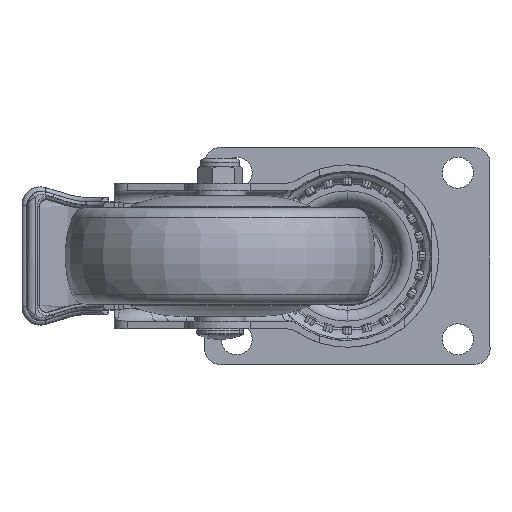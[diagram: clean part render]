
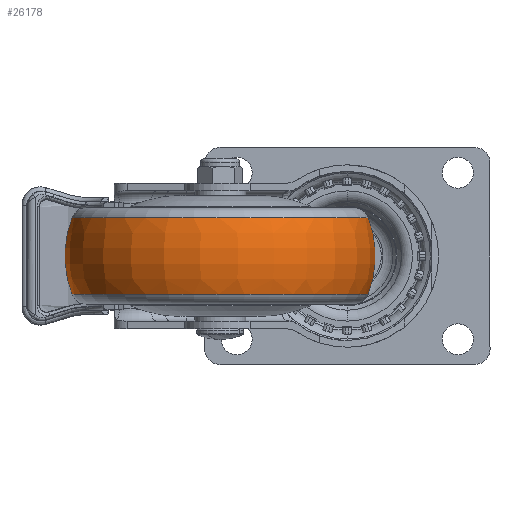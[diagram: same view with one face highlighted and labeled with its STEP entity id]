
A CAD part, front view. The second image highlights one B-rep face of the part: STEP entity #26178.
In plain terms, the highlighted toroidal (fillet/blend) face has major radius 16 mm and minor radius 34 mm.
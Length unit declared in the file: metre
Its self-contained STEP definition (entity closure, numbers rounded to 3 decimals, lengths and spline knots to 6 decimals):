
#288 = DIRECTION ( 'NONE',  ( 1., -0.007, 0. ) ) ;
#1726 = DIRECTION ( 'NONE',  ( -1., 0.007, 0. ) ) ;
#1881 = FACE_OUTER_BOUND ( 'NONE', #2879, .T. ) ;
#2341 = AXIS2_PLACEMENT_3D ( 'NONE', #28314, #11291, #13793 ) ;
#2879 = EDGE_LOOP ( 'NONE', ( #8074, #16215, #3336, #11131 ) ) ;
#3336 = ORIENTED_EDGE ( 'NONE', *, *, #9785, .T. ) ;
#3352 = CIRCLE ( 'NONE', #2341, 0.047693 ) ;
#3580 = CIRCLE ( 'NONE', #20181, 0.047693 ) ;
#5506 = DIRECTION ( 'NONE',  ( 0.007, 1., 0. ) ) ;
#5844 = CARTESIAN_POINT ( 'NONE',  ( -0.088692, -0.087233, 0.01231 ) ) ;
#7400 = CARTESIAN_POINT ( 'NONE',  ( -0.041, -0.087567, 0.01231 ) ) ;
#7701 = DIRECTION ( 'NONE',  ( -0.007, -1., 0. ) ) ;
#7955 = VERTEX_POINT ( 'NONE', #5844 ) ;
#8015 = CARTESIAN_POINT ( 'NONE',  ( 0.006692, -0.087901, 0.01231 ) ) ;
#8074 = ORIENTED_EDGE ( 'NONE', *, *, #24797, .F. ) ;
#9785 = EDGE_CURVE ( 'NONE', #7955, #13677, #14061, .T. ) ;
#11131 = ORIENTED_EDGE ( 'NONE', *, *, #13655, .F. ) ;
#11291 = DIRECTION ( 'NONE',  ( 0., 0., -1. ) ) ;
#12252 = CARTESIAN_POINT ( 'NONE',  ( -0.057, -0.087455, 0. ) ) ;
#13655 = EDGE_CURVE ( 'NONE', #15480, #13677, #3352, .T. ) ;
#13677 = VERTEX_POINT ( 'NONE', #22825 ) ;
#13692 = CARTESIAN_POINT ( 'NONE',  ( -0.041, -0.087567, 0. ) ) ;
#13793 = DIRECTION ( 'NONE',  ( -1., 0.007, 0. ) ) ;
#14061 = CIRCLE ( 'NONE', #20579, 0.034 ) ;
#15480 = VERTEX_POINT ( 'NONE', #23818 ) ;
#16059 = VERTEX_POINT ( 'NONE', #8015 ) ;
#16215 = ORIENTED_EDGE ( 'NONE', *, *, #26286, .T. ) ;
#16986 = DIRECTION ( 'NONE',  ( -1., 0.007, 0. ) ) ;
#20181 = AXIS2_PLACEMENT_3D ( 'NONE', #7400, #21407, #16986 ) ;
#20579 = AXIS2_PLACEMENT_3D ( 'NONE', #12252, #7701, #288 ) ;
#20981 = AXIS2_PLACEMENT_3D ( 'NONE', #27079, #5506, #27232 ) ;
#21407 = DIRECTION ( 'NONE',  ( 0., 0., -1. ) ) ;
#22825 = CARTESIAN_POINT ( 'NONE',  ( -0.088692, -0.087233, -0.01231 ) ) ;
#23212 = AXIS2_PLACEMENT_3D ( 'NONE', #13692, #30247, #1726 ) ;
#23818 = CARTESIAN_POINT ( 'NONE',  ( 0.006692, -0.087901, -0.01231 ) ) ;
#24797 = EDGE_CURVE ( 'NONE', #16059, #15480, #26527, .T. ) ;
#26178 = ADVANCED_FACE ( 'NONE', ( #1881 ), #27736, .T. ) ;
#26286 = EDGE_CURVE ( 'NONE', #16059, #7955, #3580, .T. ) ;
#26527 = CIRCLE ( 'NONE', #20981, 0.034 ) ;
#27079 = CARTESIAN_POINT ( 'NONE',  ( -0.025, -0.087679, 0. ) ) ;
#27232 = DIRECTION ( 'NONE',  ( -1., 0.007, 0. ) ) ;
#27736 = TOROIDAL_SURFACE ( 'NONE', #23212, 0.016, 0.034 ) ;
#28314 = CARTESIAN_POINT ( 'NONE',  ( -0.041, -0.087567, -0.01231 ) ) ;
#30247 = DIRECTION ( 'NONE',  ( 0., 0., -1. ) ) ;
